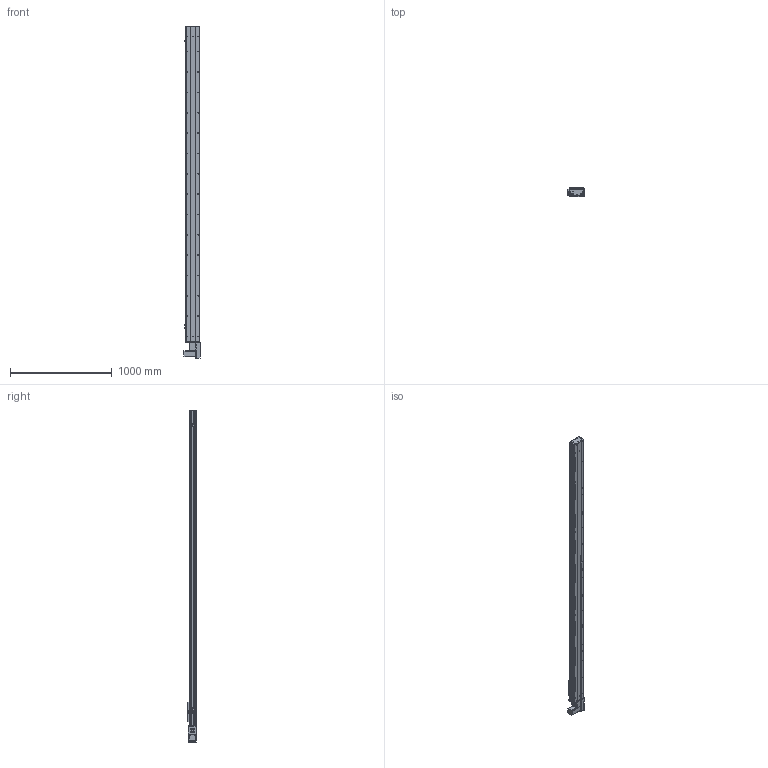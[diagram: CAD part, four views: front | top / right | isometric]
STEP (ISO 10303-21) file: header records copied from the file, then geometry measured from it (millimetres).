
FILE_DESCRIPTION (( 'STEP AP203' ), '1' );
FILE_NAME ('Y135CB-D90-S2800-BL-P400W.STEP', '2020-02-18T01:49:15', ( '微软用户' ), ( '微软中国' ), 'SwSTEP 2.0', 'SolidWorks 2017', '' );
FILE_SCHEMA (( 'CONFIG_CONTROL_DESIGN' ));
Length unit declared in the file: millimetre
Products named in the file (18): C-詩湍揤踡え-陔; Y10B--々湍喘謫眊--666; 135CB--詩湍-CE; Y10B-耜蚾蟀諉啣----; Y100-135俋离換覜ん--; Y俋欶BR----; C-雄赽釱--; Y135C-陔俋离換覜結え-; 0B-埴倛裔啣; Y135CB-D90-S2800-BL-P400W; 5C--俋欶; 0B-源倛裔啣; 0B-萇儂楊擘啣; Y135CB-耜裔; san松下电机400不带刹车----; 135CB---遴掛极.-; 5CB --掛极耜裔啣-; 35CB---喘謫眊楊擘啣
Assembly tree (21 placements, depth 2):
  Y135CB-D90-S2800-BL-P400W
    Y135CB-耜裔
    135CB---遴掛极.-
    35CB---喘謫眊楊擘啣
    Y10B--々湍喘謫眊--666
    Y10B-耜蚾蟀諉啣----
    Y俋欶BR----
    0B-埴倛裔啣
    0B-源倛裔啣
    0B-萇儂楊擘啣
    san松下电机400不带刹车----
    5CB --掛极耜裔啣-  x2
    C-詩湍揤踡え-陔  x2
    135CB--詩湍-CE
    Y100-135俋离換覜ん--  x3
    Y135C-陔俋离換覜結え-
    5C--俋欶
    C-雄赽釱--
Bounding box: 157.5 x 91 x 3264.5 mm (x, y, z)
Volume: 9061742.6 mm3; surface area: 3593865.5 mm2
Topology: 21 solids, 21 shells, 981 faces, 2689 edges, 1782 vertices
Faces by surface type: cylinder 507, plane 458, cone 16
Entity records: 31159 total; most frequent: CARTESIAN_POINT 5208, DIRECTION 5177, ORIENTED_EDGE 4854, EDGE_CURVE 2427, AXIS2_PLACEMENT_3D 1899, VERTEX_POINT 1610, VECTOR 1379, LINE 1379
